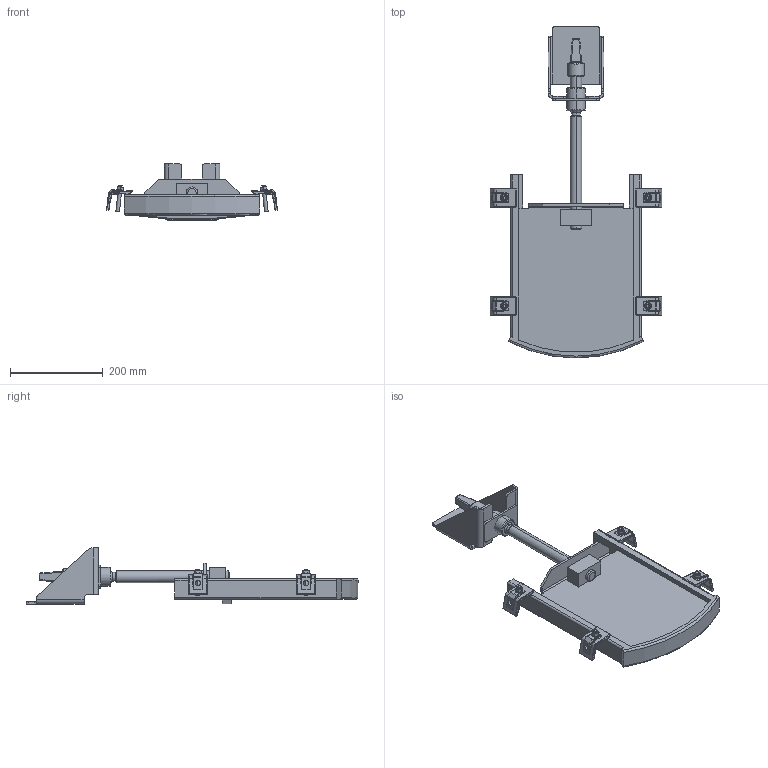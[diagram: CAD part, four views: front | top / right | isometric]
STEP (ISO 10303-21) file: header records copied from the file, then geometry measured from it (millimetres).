
FILE_DESCRIPTION (( 'STEP AP214' ), '1' );
FILE_NAME ('LW 200 Schacht1500 betoniert.STEP', '2022-05-19T11:36:49', ( '' ), ( '' ), 'SwSTEP 2.0', 'SolidWorks 2021', '' );
FILE_SCHEMA (( 'AUTOMOTIVE_DESIGN' ));
Length unit declared in the file: millimetre
Products named in the file (1): LW 200 Schacht1500 betoniert
Bounding box: 369.56 x 715 x 121 mm (x, y, z)
Volume: 1878637.8 mm3; surface area: 529334.8 mm2
Topology: 1 solids, 5 shells, 784 faces, 1856 edges, 1046 vertices
Faces by surface type: cylinder 297, plane 255, cone 62, sphere 60, torus 56, bspline 54
Entity records: 32740 total; most frequent: CARTESIAN_POINT 6755, DIRECTION 3722, ORIENTED_EDGE 3592, EDGE_CURVE 1796, AXIS2_PLACEMENT_3D 1451, VERTEX_POINT 1038, EDGE_LOOP 828, VECTOR 820
